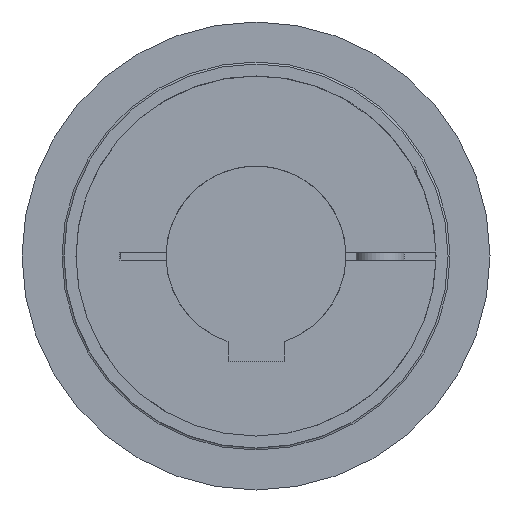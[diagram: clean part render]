
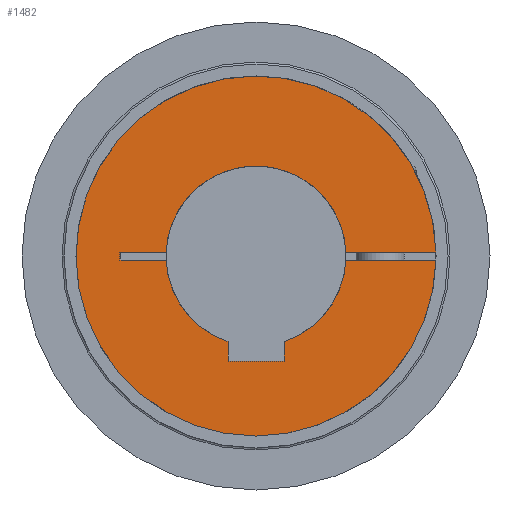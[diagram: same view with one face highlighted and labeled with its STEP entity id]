
A CAD part, left-side view. The second image highlights one B-rep face of the part: STEP entity #1482.
In plain terms, the highlighted planar face has unit normal (-1, 0, 0).
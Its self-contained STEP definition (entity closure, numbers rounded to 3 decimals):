
#24=PLANE('',#1695);
#141=LINE('',#2678,#244);
#144=LINE('',#2684,#247);
#145=LINE('',#2686,#248);
#156=LINE('',#2707,#259);
#157=LINE('',#2709,#260);
#158=LINE('',#2711,#261);
#159=LINE('',#2713,#262);
#160=LINE('',#2714,#263);
#244=VECTOR('',#2053,1.);
#247=VECTOR('',#2058,1.);
#248=VECTOR('',#2061,1.);
#259=VECTOR('',#2084,1.);
#260=VECTOR('',#2087,1.);
#261=VECTOR('',#2088,1.);
#262=VECTOR('',#2089,1.);
#263=VECTOR('',#2090,1.);
#375=FACE_OUTER_BOUND('',#470,.T.);
#470=EDGE_LOOP('',(#1224,#1225,#1226,#1227,#1228,#1229,#1230,#1231,#1232,
#1233,#1234,#1235,#1236));
#604=CIRCLE('',#1630,45.);
#607=CIRCLE('',#1633,45.);
#638=CIRCLE('',#1679,22.5);
#641=CIRCLE('',#1683,22.5);
#643=CIRCLE('',#1685,22.5);
#697=VERTEX_POINT('',#2374);
#698=VERTEX_POINT('',#2376);
#703=VERTEX_POINT('',#2386);
#744=VERTEX_POINT('',#2648);
#745=VERTEX_POINT('',#2649);
#750=VERTEX_POINT('',#2660);
#751=VERTEX_POINT('',#2662);
#754=VERTEX_POINT('',#2668);
#755=VERTEX_POINT('',#2670);
#757=VERTEX_POINT('',#2676);
#759=VERTEX_POINT('',#2682);
#764=VERTEX_POINT('',#2710);
#765=VERTEX_POINT('',#2712);
#862=EDGE_CURVE('',#697,#698,#604,.T.);
#868=EDGE_CURVE('',#703,#697,#607,.T.);
#921=EDGE_CURVE('',#744,#745,#638,.T.);
#927=EDGE_CURVE('',#751,#750,#641,.T.);
#931=EDGE_CURVE('',#755,#754,#643,.T.);
#935=EDGE_CURVE('',#754,#757,#141,.T.);
#938=EDGE_CURVE('',#757,#759,#144,.T.);
#939=EDGE_CURVE('',#759,#751,#145,.T.);
#950=EDGE_CURVE('',#745,#698,#156,.T.);
#951=EDGE_CURVE('',#703,#755,#157,.T.);
#952=EDGE_CURVE('',#750,#764,#158,.T.);
#953=EDGE_CURVE('',#764,#765,#159,.T.);
#954=EDGE_CURVE('',#765,#744,#160,.T.);
#1224=ORIENTED_EDGE('',*,*,#921,.T.);
#1225=ORIENTED_EDGE('',*,*,#950,.T.);
#1226=ORIENTED_EDGE('',*,*,#862,.F.);
#1227=ORIENTED_EDGE('',*,*,#868,.F.);
#1228=ORIENTED_EDGE('',*,*,#951,.T.);
#1229=ORIENTED_EDGE('',*,*,#931,.T.);
#1230=ORIENTED_EDGE('',*,*,#935,.T.);
#1231=ORIENTED_EDGE('',*,*,#938,.T.);
#1232=ORIENTED_EDGE('',*,*,#939,.T.);
#1233=ORIENTED_EDGE('',*,*,#927,.T.);
#1234=ORIENTED_EDGE('',*,*,#952,.T.);
#1235=ORIENTED_EDGE('',*,*,#953,.T.);
#1236=ORIENTED_EDGE('',*,*,#954,.T.);
#1482=ADVANCED_FACE('',(#375),#24,.T.);
#1630=AXIS2_PLACEMENT_3D('',#2377,#1912,#1913);
#1633=AXIS2_PLACEMENT_3D('',#2388,#1921,#1922);
#1679=AXIS2_PLACEMENT_3D('',#2650,#2029,#2030);
#1683=AXIS2_PLACEMENT_3D('',#2663,#2040,#2041);
#1685=AXIS2_PLACEMENT_3D('',#2671,#2046,#2047);
#1695=AXIS2_PLACEMENT_3D('',#2708,#2085,#2086);
#1912=DIRECTION('center_axis',(1.,0.,0.));
#1913=DIRECTION('ref_axis',(0.,0.,1.));
#1921=DIRECTION('center_axis',(1.,0.,0.));
#1922=DIRECTION('ref_axis',(0.,0.,1.));
#2029=DIRECTION('center_axis',(1.,0.,0.));
#2030=DIRECTION('ref_axis',(0.,0.,-1.));
#2040=DIRECTION('center_axis',(1.,0.,0.));
#2041=DIRECTION('ref_axis',(0.,0.,-1.));
#2046=DIRECTION('center_axis',(1.,0.,0.));
#2047=DIRECTION('ref_axis',(0.,0.,-1.));
#2053=DIRECTION('',(0.,0.,-1.));
#2058=DIRECTION('',(0.,1.,0.));
#2061=DIRECTION('',(0.,0.,1.));
#2084=DIRECTION('',(0.,-1.,0.));
#2085=DIRECTION('center_axis',(-1.,0.,0.));
#2086=DIRECTION('ref_axis',(0.,0.,-1.));
#2087=DIRECTION('',(0.,1.,0.));
#2088=DIRECTION('',(0.,1.,0.));
#2089=DIRECTION('',(0.,0.,1.));
#2090=DIRECTION('',(0.,-1.,0.));
#2374=CARTESIAN_POINT('',(0.,0.,-45.));
#2376=CARTESIAN_POINT('',(0.,-44.989,1.));
#2377=CARTESIAN_POINT('Origin',(0.,0.,0.));
#2386=CARTESIAN_POINT('',(0.,-44.989,-1.));
#2388=CARTESIAN_POINT('Origin',(0.,0.,0.));
#2648=CARTESIAN_POINT('',(0.,22.478,1.));
#2649=CARTESIAN_POINT('',(0.,-22.478,1.));
#2650=CARTESIAN_POINT('Origin',(0.,0.,0.));
#2660=CARTESIAN_POINT('',(0.,22.478,-1.));
#2662=CARTESIAN_POINT('',(0.,7.,-21.383));
#2663=CARTESIAN_POINT('Origin',(0.,0.,0.));
#2668=CARTESIAN_POINT('',(0.,-7.,-21.383));
#2670=CARTESIAN_POINT('',(0.,-22.478,-1.));
#2671=CARTESIAN_POINT('Origin',(0.,0.,0.));
#2676=CARTESIAN_POINT('',(0.,-7.,-26.3));
#2678=CARTESIAN_POINT('',(0.,-7.,4.675));
#2682=CARTESIAN_POINT('',(0.,7.,-26.3));
#2684=CARTESIAN_POINT('',(0.,0.,-26.3));
#2686=CARTESIAN_POINT('',(0.,7.,4.675));
#2707=CARTESIAN_POINT('',(0.,-3.,1.));
#2708=CARTESIAN_POINT('Origin',(0.,0.,22.5));
#2709=CARTESIAN_POINT('',(0.,-3.,-1.));
#2710=CARTESIAN_POINT('',(0.,34.,-1.));
#2711=CARTESIAN_POINT('',(0.,-3.,-1.));
#2712=CARTESIAN_POINT('',(0.,34.,1.));
#2713=CARTESIAN_POINT('',(0.,34.,11.25));
#2714=CARTESIAN_POINT('',(0.,-3.,1.));
